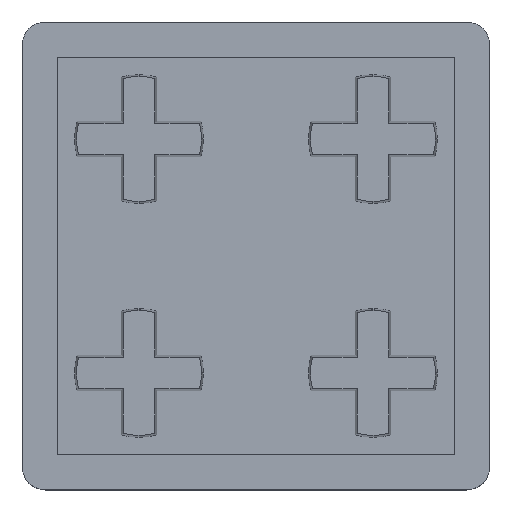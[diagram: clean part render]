
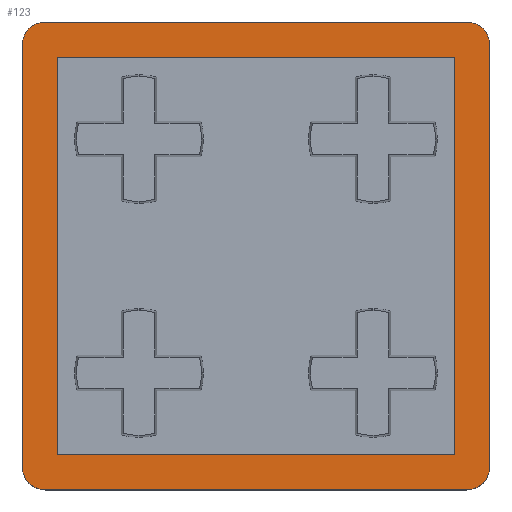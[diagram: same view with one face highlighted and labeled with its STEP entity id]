
A CAD part, top view. The second image highlights one B-rep face of the part: STEP entity #123.
In plain terms, the highlighted planar face has unit normal (0, 0, 1).
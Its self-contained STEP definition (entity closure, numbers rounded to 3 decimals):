
#50 = EDGE_CURVE ( 'NONE', #253, #391, #1542, .T. ) ;
#65 = DIRECTION ( 'NONE',  ( 0., -1., 0. ) ) ;
#76 = CARTESIAN_POINT ( 'NONE',  ( 8.5, -8.5, 5. ) ) ;
#79 = DIRECTION ( 'NONE',  ( -1., 0., 0. ) ) ;
#104 = CARTESIAN_POINT ( 'NONE',  ( -10., 10., 5. ) ) ;
#106 = DIRECTION ( 'NONE',  ( 1., 0., 0. ) ) ;
#123 = ADVANCED_FACE ( 'NONE', ( #264, #1880 ), #1194, .T. ) ;
#197 = LINE ( 'NONE', #1649, #1469 ) ;
#239 = VERTEX_POINT ( 'NONE', #2345 ) ;
#253 = VERTEX_POINT ( 'NONE', #336 ) ;
#264 = FACE_BOUND ( 'NONE', #642, .T. ) ;
#290 = LINE ( 'NONE', #660, #2066 ) ;
#336 = CARTESIAN_POINT ( 'NONE',  ( 8.5, -8.5, 5. ) ) ;
#357 = EDGE_CURVE ( 'NONE', #1444, #1379, #197, .T. ) ;
#375 = LINE ( 'NONE', #596, #831 ) ;
#391 = VERTEX_POINT ( 'NONE', #2224 ) ;
#461 = CARTESIAN_POINT ( 'NONE',  ( 9., -10., 5. ) ) ;
#469 = DIRECTION ( 'NONE',  ( 0., -1., 0. ) ) ;
#524 = DIRECTION ( 'NONE',  ( 0., 0., 1. ) ) ;
#549 = CARTESIAN_POINT ( 'NONE',  ( -9., -10., 5. ) ) ;
#556 = CARTESIAN_POINT ( 'NONE',  ( 9., 10., 5. ) ) ;
#588 = DIRECTION ( 'NONE',  ( 0., 1., 0. ) ) ;
#596 = CARTESIAN_POINT ( 'NONE',  ( 10., -10., 5. ) ) ;
#608 = EDGE_CURVE ( 'NONE', #1039, #1792, #707, .T. ) ;
#619 = DIRECTION ( 'NONE',  ( 1., 0., 0. ) ) ;
#642 = EDGE_LOOP ( 'NONE', ( #1401, #2327, #804, #840 ) ) ;
#660 = CARTESIAN_POINT ( 'NONE',  ( -8.5, -8.5, 5. ) ) ;
#675 = CARTESIAN_POINT ( 'NONE',  ( -10., -9., 5. ) ) ;
#701 = AXIS2_PLACEMENT_3D ( 'NONE', #769, #1136, #1847 ) ;
#707 = LINE ( 'NONE', #1565, #1356 ) ;
#721 = ORIENTED_EDGE ( 'NONE', *, *, #608, .T. ) ;
#729 = DIRECTION ( 'NONE',  ( 1., 0., 0. ) ) ;
#762 = CARTESIAN_POINT ( 'NONE',  ( -8.5, 8.5, 5. ) ) ;
#769 = CARTESIAN_POINT ( 'NONE',  ( 9., -9., 5. ) ) ;
#787 = EDGE_CURVE ( 'NONE', #391, #1645, #1147, .T. ) ;
#792 = AXIS2_PLACEMENT_3D ( 'NONE', #1518, #984, #619 ) ;
#804 = ORIENTED_EDGE ( 'NONE', *, *, #2091, .F. ) ;
#816 = CARTESIAN_POINT ( 'NONE',  ( -9., 10., 5. ) ) ;
#822 = VERTEX_POINT ( 'NONE', #989 ) ;
#830 = EDGE_CURVE ( 'NONE', #1792, #1497, #2101, .T. ) ;
#831 = VECTOR ( 'NONE', #588, 1000. ) ;
#840 = ORIENTED_EDGE ( 'NONE', *, *, #2208, .F. ) ;
#957 = ORIENTED_EDGE ( 'NONE', *, *, #357, .T. ) ;
#983 = ORIENTED_EDGE ( 'NONE', *, *, #2189, .T. ) ;
#984 = DIRECTION ( 'NONE',  ( 0., 0., 1. ) ) ;
#989 = CARTESIAN_POINT ( 'NONE',  ( 10., -9., 5. ) ) ;
#1005 = CARTESIAN_POINT ( 'NONE',  ( -9., 9., 5. ) ) ;
#1039 = VERTEX_POINT ( 'NONE', #556 ) ;
#1048 = DIRECTION ( 'NONE',  ( 1., 0., 0. ) ) ;
#1136 = DIRECTION ( 'NONE',  ( 0., 0., 1. ) ) ;
#1147 = LINE ( 'NONE', #2240, #1487 ) ;
#1152 = VECTOR ( 'NONE', #65, 1000. ) ;
#1157 = CARTESIAN_POINT ( 'NONE',  ( -8.5, 8.5, 5. ) ) ;
#1162 = CARTESIAN_POINT ( 'NONE',  ( -9., -9., 5. ) ) ;
#1168 = LINE ( 'NONE', #104, #1152 ) ;
#1191 = VECTOR ( 'NONE', #469, 1000. ) ;
#1194 = PLANE ( 'NONE',  #792 ) ;
#1228 = AXIS2_PLACEMENT_3D ( 'NONE', #1005, #1343, #106 ) ;
#1326 = EDGE_CURVE ( 'NONE', #1906, #1444, #1709, .T. ) ;
#1343 = DIRECTION ( 'NONE',  ( 0., 0., 1. ) ) ;
#1356 = VECTOR ( 'NONE', #1789, 1000. ) ;
#1379 = VERTEX_POINT ( 'NONE', #461 ) ;
#1401 = ORIENTED_EDGE ( 'NONE', *, *, #787, .F. ) ;
#1416 = CIRCLE ( 'NONE', #701, 1. ) ;
#1418 = EDGE_LOOP ( 'NONE', ( #957, #1707, #2031, #1617, #721, #1781, #983, #2288 ) ) ;
#1432 = CARTESIAN_POINT ( 'NONE',  ( 9., 9., 5. ) ) ;
#1444 = VERTEX_POINT ( 'NONE', #549 ) ;
#1469 = VECTOR ( 'NONE', #729, 1000. ) ;
#1471 = AXIS2_PLACEMENT_3D ( 'NONE', #1432, #524, #1048 ) ;
#1487 = VECTOR ( 'NONE', #79, 1000. ) ;
#1497 = VERTEX_POINT ( 'NONE', #2168 ) ;
#1506 = CIRCLE ( 'NONE', #1471, 1. ) ;
#1518 = CARTESIAN_POINT ( 'NONE',  ( 0., 0., 5. ) ) ;
#1542 = LINE ( 'NONE', #76, #2080 ) ;
#1565 = CARTESIAN_POINT ( 'NONE',  ( 10., 10., 5. ) ) ;
#1617 = ORIENTED_EDGE ( 'NONE', *, *, #1876, .T. ) ;
#1645 = VERTEX_POINT ( 'NONE', #762 ) ;
#1649 = CARTESIAN_POINT ( 'NONE',  ( -10., -10., 5. ) ) ;
#1687 = DIRECTION ( 'NONE',  ( 1., 0., 0. ) ) ;
#1707 = ORIENTED_EDGE ( 'NONE', *, *, #2065, .T. ) ;
#1709 = CIRCLE ( 'NONE', #2243, 1. ) ;
#1730 = DIRECTION ( 'NONE',  ( 1., 0., 0. ) ) ;
#1781 = ORIENTED_EDGE ( 'NONE', *, *, #830, .T. ) ;
#1789 = DIRECTION ( 'NONE',  ( -1., 0., 0. ) ) ;
#1792 = VERTEX_POINT ( 'NONE', #816 ) ;
#1847 = DIRECTION ( 'NONE',  ( 1., 0., 0. ) ) ;
#1867 = VERTEX_POINT ( 'NONE', #2154 ) ;
#1876 = EDGE_CURVE ( 'NONE', #239, #1039, #1506, .T. ) ;
#1880 = FACE_OUTER_BOUND ( 'NONE', #1418, .T. ) ;
#1893 = LINE ( 'NONE', #1157, #1191 ) ;
#1906 = VERTEX_POINT ( 'NONE', #675 ) ;
#1918 = DIRECTION ( 'NONE',  ( 0., 1., 0. ) ) ;
#1982 = EDGE_CURVE ( 'NONE', #822, #239, #375, .T. ) ;
#2031 = ORIENTED_EDGE ( 'NONE', *, *, #1982, .T. ) ;
#2065 = EDGE_CURVE ( 'NONE', #1379, #822, #1416, .T. ) ;
#2066 = VECTOR ( 'NONE', #1687, 1000. ) ;
#2080 = VECTOR ( 'NONE', #1918, 1000. ) ;
#2091 = EDGE_CURVE ( 'NONE', #1867, #253, #290, .T. ) ;
#2101 = CIRCLE ( 'NONE', #1228, 1. ) ;
#2108 = DIRECTION ( 'NONE',  ( 0., 0., 1. ) ) ;
#2154 = CARTESIAN_POINT ( 'NONE',  ( -8.5, -8.5, 5. ) ) ;
#2168 = CARTESIAN_POINT ( 'NONE',  ( -10., 9., 5. ) ) ;
#2189 = EDGE_CURVE ( 'NONE', #1497, #1906, #1168, .T. ) ;
#2208 = EDGE_CURVE ( 'NONE', #1645, #1867, #1893, .T. ) ;
#2224 = CARTESIAN_POINT ( 'NONE',  ( 8.5, 8.5, 5. ) ) ;
#2240 = CARTESIAN_POINT ( 'NONE',  ( 8.5, 8.5, 5. ) ) ;
#2243 = AXIS2_PLACEMENT_3D ( 'NONE', #1162, #2108, #1730 ) ;
#2288 = ORIENTED_EDGE ( 'NONE', *, *, #1326, .T. ) ;
#2327 = ORIENTED_EDGE ( 'NONE', *, *, #50, .F. ) ;
#2345 = CARTESIAN_POINT ( 'NONE',  ( 10., 9., 5. ) ) ;
